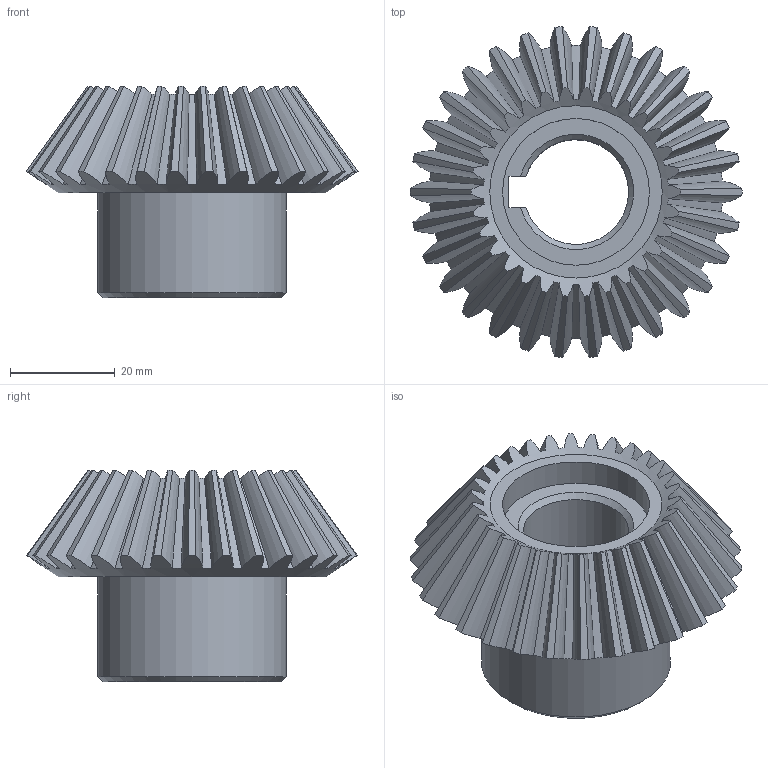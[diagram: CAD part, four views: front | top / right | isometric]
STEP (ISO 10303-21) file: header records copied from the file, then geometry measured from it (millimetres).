
FILE_DESCRIPTION(/* description */ (''),/* implementation_level */ '2;1');
FILE_NAME(/* name */ '',/* time_stamp */ '2026-04-23T11:35:28+09:00',/* author */ ('jhkim'),/* organization */ (''),/* preprocessor_version */ 'ST-DEVELOPER v20.1',/* originating_system */ 'Autodesk Inventor 2027',/* authorisation */ '');
FILE_SCHEMA (('AUTOMOTIVE_DESIGN { 1 0 10303 214 3 1 1 }'));
Length unit declared in the file: millimetre
Products named in the file (1): 베벨 기어(구동)
Bounding box: 63.33 x 63.12 x 40.34 mm (x, y, z)
Volume: 43264 mm3; surface area: 14442.7 mm2
Topology: 1 solids, 1 shells, 139 faces, 402 edges, 268 vertices
Faces by surface type: cone 65, bspline 60, plane 11, cylinder 3
Full cylindrical faces by diameter (mm): 28 x1, 36 x1
Entity records: 7341 total; most frequent: CARTESIAN_POINT 4166, ORIENTED_EDGE 804, DIRECTION 452, EDGE_CURVE 402, VERTEX_POINT 268, B_SPLINE_CURVE_WITH_KNOTS 240, AXIS2_PLACEMENT_3D 214, EDGE_LOOP 144
